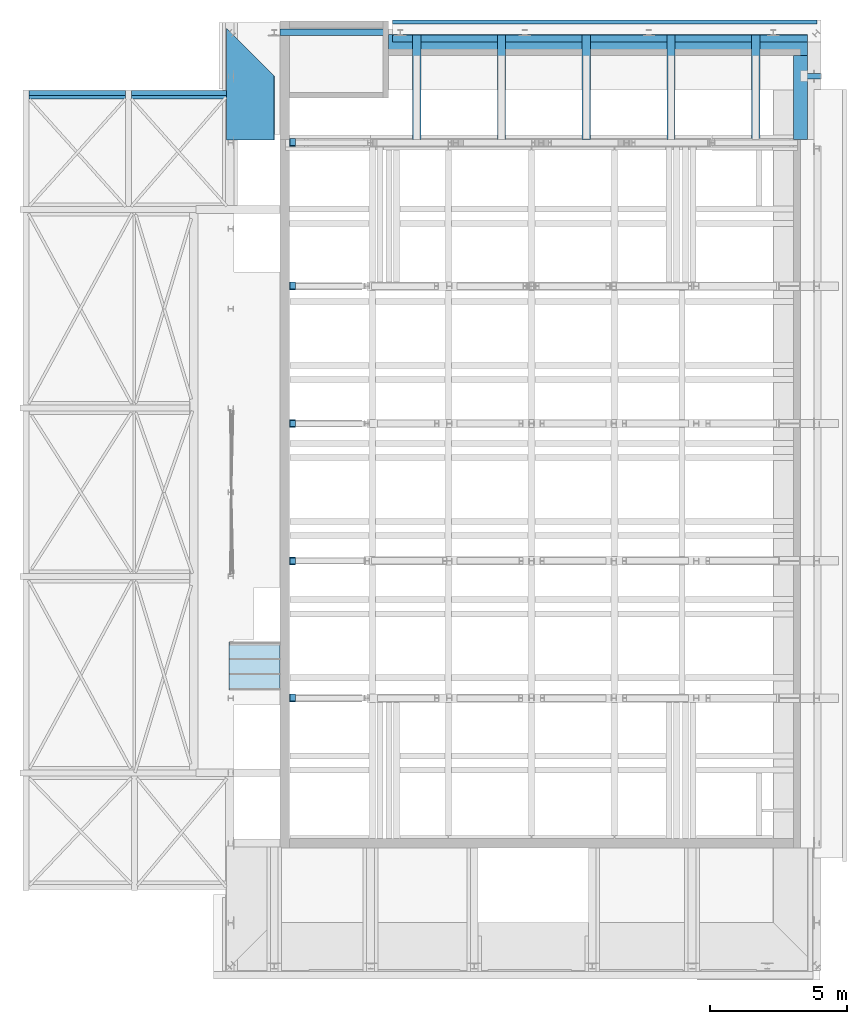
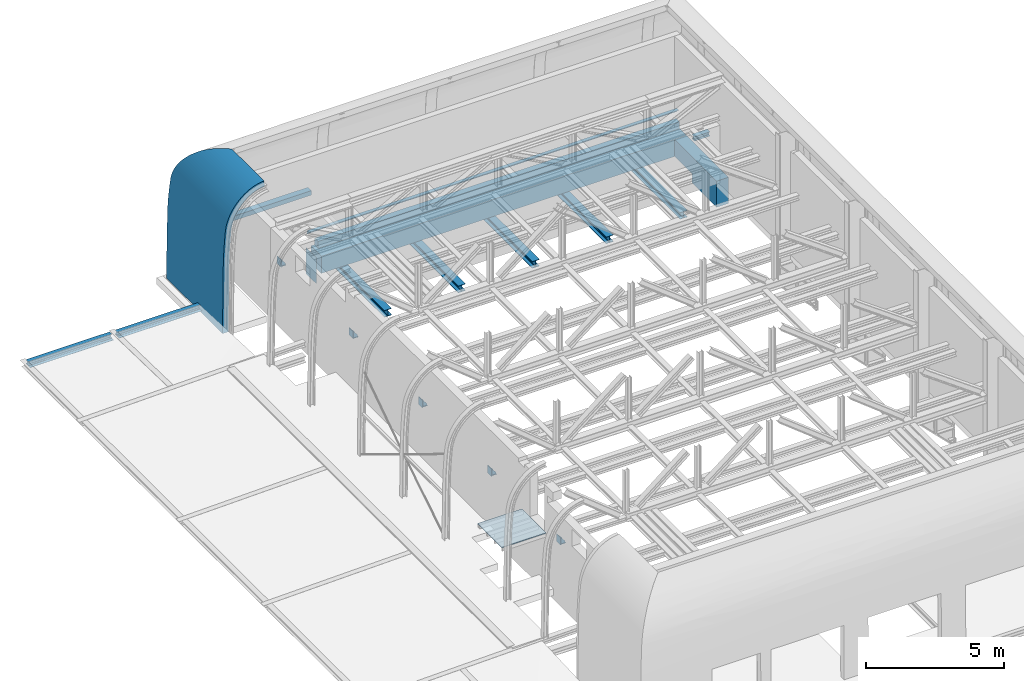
# One storey, part 24 of 29: 19 beams, 1 slab.
"""IFC2X3 building model written with IfcOpenShell, lengths in millimetres."""

from ifc_helpers import new_model, entity, si_unit, converted_unit, derived_unit, direction, frame, frame_2d, origin, origin_2d_with_axis, place, context, subcontext, project, spatial, polyline, circle_curve, parameter, trimmed, segment, composite_curve, rectangle, i_section, outline, extrude, clip, halfspace, faceted_brep, source, transform, mapped, material, material_list, layer, layer_set, layer_usage, type_object, type_shapes, element, save


model = new_model("IFC2X3")

# Units and contexts
model_context = context("Model", 3, precision=0.01, world=origin(), true_north=direction((6.12303176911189e-17, 1.0)))
body_context = subcontext(model_context, "Body", "Model", "MODEL_VIEW")
ifc_project = project(units=[si_unit("LENGTHUNIT", "METRE", prefix="MILLI"), si_unit("AREAUNIT", "SQUARE_METRE", prefix="MILLI"), si_unit("VOLUMEUNIT", "CUBIC_METRE"), converted_unit("PLANEANGLEUNIT", "DEGREE", entity("IfcRatioMeasure", 0.0174532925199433), si_unit("PLANEANGLEUNIT", "RADIAN"), dimensions=[0, 0, 0, 0, 0, 0, 0]), si_unit("MASSUNIT", "GRAM", prefix="KILO"), derived_unit("MASSDENSITYUNIT", [(si_unit("MASSUNIT", "GRAM", prefix="KILO"), 1), (si_unit("LENGTHUNIT", "METRE"), -3)]), derived_unit("MOMENTOFINERTIAUNIT", [(si_unit("LENGTHUNIT", "METRE"), 4)]), si_unit("TIMEUNIT", "SECOND"), si_unit("FREQUENCYUNIT", "HERTZ"), si_unit("THERMODYNAMICTEMPERATUREUNIT", "DEGREE_CELSIUS"), derived_unit("THERMALTRANSMITTANCEUNIT", [(si_unit("MASSUNIT", "GRAM", prefix="KILO"), 1), (si_unit("THERMODYNAMICTEMPERATUREUNIT", "KELVIN"), -1), (si_unit("TIMEUNIT", "SECOND"), -3)]), derived_unit("VOLUMETRICFLOWRATEUNIT", [(si_unit("LENGTHUNIT", "METRE"), 3), (si_unit("TIMEUNIT", "SECOND"), -1)]), si_unit("ELECTRICCURRENTUNIT", "AMPERE"), si_unit("ELECTRICVOLTAGEUNIT", "VOLT"), si_unit("POWERUNIT", "WATT"), si_unit("FORCEUNIT", "NEWTON", prefix="KILO"), si_unit("ILLUMINANCEUNIT", "LUX"), si_unit("LUMINOUSFLUXUNIT", "LUMEN"), si_unit("LUMINOUSINTENSITYUNIT", "CANDELA"), derived_unit("USERDEFINED", [(si_unit("MASSUNIT", "GRAM", prefix="KILO"), -1), (si_unit("LENGTHUNIT", "METRE"), -2), (si_unit("TIMEUNIT", "SECOND"), 3), (si_unit("LUMINOUSFLUXUNIT", "LUMEN"), 1)]), derived_unit("LINEARVELOCITYUNIT", [(si_unit("LENGTHUNIT", "METRE"), 1), (si_unit("TIMEUNIT", "SECOND"), -1)]), si_unit("PRESSUREUNIT", "PASCAL"), derived_unit("USERDEFINED", [(si_unit("LENGTHUNIT", "METRE"), -2), (si_unit("MASSUNIT", "GRAM", prefix="KILO"), 1), (si_unit("TIMEUNIT", "SECOND"), -2)]), derived_unit("LINEARFORCEUNIT", [(si_unit("MASSUNIT", "GRAM", prefix="KILO"), 1), (si_unit("LENGTHUNIT", "METRE"), 1), (si_unit("TIMEUNIT", "SECOND"), -2), (si_unit("LENGTHUNIT", "METRE"), -1)]), derived_unit("PLANARFORCEUNIT", [(si_unit("MASSUNIT", "GRAM", prefix="KILO"), 1), (si_unit("LENGTHUNIT", "METRE"), 1), (si_unit("TIMEUNIT", "SECOND"), -2), (si_unit("LENGTHUNIT", "METRE"), -2)])], contexts=[model_context])

# Site, building, storey
site_placement = place(None, origin())
site = spatial("IfcSite", under=ifc_project, at=site_placement, Name="Theater aan de Parade", CompositionType="ELEMENT")
building_placement = place(site_placement, origin())
building = spatial("IfcBuilding", under=site, at=building_placement, Name="Theater aan de Parade", CompositionType="ELEMENT")
storey_placement = place(building_placement, frame((0.0, 0.0, 20300.0)))
storey = spatial("IfcBuildingStorey", under=building, at=storey_placement, Name="05 vijfde verdieping", CompositionType="ELEMENT", Elevation=20300.0)

# Beams
ifc_material_1 = material(Name="00_PBT_MAT_staal_S355")
beam_type_1 = type_object("IfcBeamType", Name="28_PBT_SF_staal_H-profiel:S355_HE300B", PredefinedType="NOTDEFINED")
beam_1_placement = place(storey_placement, frame((78505.4885583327, 49051.5644848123, 0.0), z_axis=(0.0, 0.0, 1.0), x_axis=(0.0, -1.0, 0.0)))
element("IfcBeam", 1, at=beam_1_placement, inside=storey, type_object=beam_type_1, material=ifc_material_1, Name="28_PBT_SF_staal_H-profiel:S355_HE300B", ObjectType="28_PBT_SF_staal_H-profiel:S355_HE300B", context=body_context, shape_type="SweptSolid", body=[
    extrude(i_section(OverallWidth=300.000000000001, OverallDepth=300.000000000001, WebThickness=10.9999999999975, FlangeThickness=18.9999999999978, FilletRadius=26.9999999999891, at=frame_2d((0.0, 0.0), x_axis=(0.0, 1.0))), frame((0.0, 0.0, -1575.0), z_axis=(1.0, 0.0, 0.0), x_axis=(0.0, 0.0, -1.0)), (0.0, 0.0, 1.0), 3791.56448481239),
])
beam_2_placement = place(storey_placement, frame((84679.5647725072, 49049.6445126, 0.0), z_axis=(0.0, 0.0, 1.0), x_axis=(0.0, -1.0, 0.0)))
element("IfcBeam", 2, at=beam_2_placement, inside=storey, type_object=beam_type_1, material=ifc_material_1, Name="28_PBT_SF_staal_H-profiel:S355_HE300B", ObjectType="28_PBT_SF_staal_H-profiel:S355_HE300B", context=body_context, shape_type="SweptSolid", body=[
    extrude(i_section(OverallWidth=300.000000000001, OverallDepth=300.000000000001, WebThickness=10.9999999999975, FlangeThickness=18.9999999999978, FilletRadius=26.9999999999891, at=frame_2d((0.0, 0.0), x_axis=(0.0, 1.0))), frame((0.0, 0.0, -1575.0), z_axis=(1.0, 0.0, 0.0), x_axis=(0.0, 0.0, -1.0)), (0.0, 0.0, 1.0), 3789.64451260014),
])
beam_3_placement = place(storey_placement, frame((72331.4123441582, 49049.6445126, 0.0), z_axis=(0.0, 0.0, 1.0), x_axis=(0.0, -1.0, 0.0)))
element("IfcBeam", 3, at=beam_3_placement, inside=storey, type_object=beam_type_1, material=ifc_material_1, Name="28_PBT_SF_staal_H-profiel:S355_HE300B", ObjectType="28_PBT_SF_staal_H-profiel:S355_HE300B", context=body_context, shape_type="SweptSolid", body=[
    extrude(outline(composite_curve([segment(polyline([(131.0, -150.0), (150.0, -150.0)]), True, "CONTINUOUS"), segment(polyline([(150.0, -150.0), (150.0, 150.0)]), True, "CONTINUOUS"), segment(polyline([(150.0, 150.0), (131.0, 150.0)]), True, "CONTINUOUS"), segment(polyline([(131.0, 150.0), (131.0, 32.4999999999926)]), True, "CONTINUOUS"), segment(trimmed(circle_curve(frame_2d((104.0, 32.4999999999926), x_axis=(1.0, 0.0)), 27.0000000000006), [parameter(270.0)], [parameter(0.0)], True, "PARAMETER"), False, "CONTINUOUS"), segment(polyline([(104.0, 5.49999999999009), (-104.0, 5.49999999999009)]), True, "CONTINUOUS"), segment(trimmed(circle_curve(frame_2d((-104.0, 32.4999999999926), x_axis=(0.0, -1.0)), 27.0000000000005), [parameter(270.0)], [parameter(0.0)], True, "PARAMETER"), False, "CONTINUOUS"), segment(polyline([(-131.0, 32.4999999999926), (-131.0, 150.0)]), True, "CONTINUOUS"), segment(polyline([(-131.0, 150.0), (-150.0, 150.0)]), True, "CONTINUOUS"), segment(polyline([(-150.0, 150.0), (-150.0, -150.0)]), True, "CONTINUOUS"), segment(polyline([(-150.0, -150.0), (-131.0, -150.0)]), True, "CONTINUOUS"), segment(polyline([(-131.0, -150.0), (-131.0, -32.5000000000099)]), True, "CONTINUOUS"), segment(trimmed(circle_curve(frame_2d((-104.0, -32.5000000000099), x_axis=(-1.0, 0.0)), 27.0000000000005), [parameter(270.0)], [parameter(0.0)], True, "PARAMETER"), False, "CONTINUOUS"), segment(polyline([(-104.0, -5.50000000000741), (104.0, -5.50000000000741)]), True, "CONTINUOUS"), segment(trimmed(circle_curve(frame_2d((104.0, -32.5000000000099), x_axis=(0.0, 1.0)), 27.0000000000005), [parameter(270.0)], [parameter(0.0)], True, "PARAMETER"), False, "CONTINUOUS"), segment(polyline([(131.0, -32.5000000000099), (131.0, -150.0)]), True, "CONTINUOUS")], self_intersect=False)), frame((0.0, 0.0, -1575.0), z_axis=(1.0, 0.0, 0.0), x_axis=(0.0, 0.0, -1.0)), (0.0, 0.0, 1.0), 3789.64451260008),
])
beam_4_placement = place(storey_placement, frame((75418.4504512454, 49049.6445126, 0.0), z_axis=(0.0, 0.0, 1.0), x_axis=(0.0, -1.0, 0.0)))
element("IfcBeam", 4, at=beam_4_placement, inside=storey, type_object=beam_type_1, material=ifc_material_1, Name="28_PBT_SF_staal_H-profiel:S355_HE300B", ObjectType="28_PBT_SF_staal_H-profiel:S355_HE300B", context=body_context, shape_type="SweptSolid", body=[
    extrude(outline(composite_curve([segment(polyline([(131.0, -150.0), (150.0, -150.0)]), True, "CONTINUOUS"), segment(polyline([(150.0, -150.0), (150.0, 150.0)]), True, "CONTINUOUS"), segment(polyline([(150.0, 150.0), (131.0, 150.0)]), True, "CONTINUOUS"), segment(polyline([(131.0, 150.0), (131.0, 32.4999999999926)]), True, "CONTINUOUS"), segment(trimmed(circle_curve(frame_2d((104.0, 32.4999999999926), x_axis=(1.0, 0.0)), 27.0000000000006), [parameter(270.0)], [parameter(0.0)], True, "PARAMETER"), False, "CONTINUOUS"), segment(polyline([(104.0, 5.49999999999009), (-104.0, 5.49999999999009)]), True, "CONTINUOUS"), segment(trimmed(circle_curve(frame_2d((-104.0, 32.4999999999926), x_axis=(0.0, -1.0)), 27.0000000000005), [parameter(270.0)], [parameter(0.0)], True, "PARAMETER"), False, "CONTINUOUS"), segment(polyline([(-131.0, 32.4999999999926), (-131.0, 150.0)]), True, "CONTINUOUS"), segment(polyline([(-131.0, 150.0), (-150.0, 150.0)]), True, "CONTINUOUS"), segment(polyline([(-150.0, 150.0), (-150.0, -150.0)]), True, "CONTINUOUS"), segment(polyline([(-150.0, -150.0), (-131.0, -150.0)]), True, "CONTINUOUS"), segment(polyline([(-131.0, -150.0), (-131.0, -32.5000000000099)]), True, "CONTINUOUS"), segment(trimmed(circle_curve(frame_2d((-104.0, -32.5000000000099), x_axis=(-1.0, 0.0)), 27.0000000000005), [parameter(270.0)], [parameter(0.0)], True, "PARAMETER"), False, "CONTINUOUS"), segment(polyline([(-104.0, -5.50000000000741), (104.0, -5.50000000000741)]), True, "CONTINUOUS"), segment(trimmed(circle_curve(frame_2d((104.0, -32.5000000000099), x_axis=(0.0, 1.0)), 27.0000000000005), [parameter(270.0)], [parameter(0.0)], True, "PARAMETER"), False, "CONTINUOUS"), segment(polyline([(131.0, -32.5000000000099), (131.0, -150.0)]), True, "CONTINUOUS")], self_intersect=False)), frame((0.0, 0.0, -1575.0), z_axis=(1.0, 0.0, 0.0), x_axis=(0.0, 0.0, -1.0)), (0.0, 0.0, 1.0), 3789.64451260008),
])
beam_5_placement = place(storey_placement, frame((81592.5266654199, 49049.6445126, 0.0), z_axis=(0.0, 0.0, 1.0), x_axis=(0.0, -1.0, 0.0)))
element("IfcBeam", 5, at=beam_5_placement, inside=storey, type_object=beam_type_1, material=ifc_material_1, Name="28_PBT_SF_staal_H-profiel:S355_HE300B", ObjectType="28_PBT_SF_staal_H-profiel:S355_HE300B", context=body_context, shape_type="SweptSolid", body=[
    extrude(outline(composite_curve([segment(polyline([(131.0, -150.0), (150.0, -150.0)]), True, "CONTINUOUS"), segment(polyline([(150.0, -150.0), (150.0, 150.0)]), True, "CONTINUOUS"), segment(polyline([(150.0, 150.0), (131.0, 150.0)]), True, "CONTINUOUS"), segment(polyline([(131.0, 150.0), (131.0, 32.5000000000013)]), True, "CONTINUOUS"), segment(trimmed(circle_curve(frame_2d((104.0, 32.5000000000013), x_axis=(1.0, 0.0)), 26.9999999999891), [parameter(269.999999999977)], [parameter(0.0)], True, "PARAMETER"), False, "CONTINUOUS"), segment(polyline([(104.0, 5.50000000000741), (-104.0, 5.50000000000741)]), True, "CONTINUOUS"), segment(trimmed(circle_curve(frame_2d((-104.0, 32.5000000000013), x_axis=(0.0, -1.0)), 26.9999999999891), [parameter(269.999999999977)], [parameter(0.0)], True, "PARAMETER"), False, "CONTINUOUS"), segment(polyline([(-131.0, 32.5000000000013), (-131.0, 150.0)]), True, "CONTINUOUS"), segment(polyline([(-131.0, 150.0), (-150.0, 150.0)]), True, "CONTINUOUS"), segment(polyline([(-150.0, 150.0), (-150.0, -150.0)]), True, "CONTINUOUS"), segment(polyline([(-150.0, -150.0), (-131.0, -150.0)]), True, "CONTINUOUS"), segment(polyline([(-131.0, -150.0), (-131.0, -32.5000000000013)]), True, "CONTINUOUS"), segment(trimmed(circle_curve(frame_2d((-104.0, -32.5000000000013), x_axis=(-1.0, 0.0)), 26.9999999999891), [parameter(269.999999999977)], [parameter(0.0)], True, "PARAMETER"), False, "CONTINUOUS"), segment(polyline([(-104.0, -5.49999999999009), (104.0, -5.49999999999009)]), True, "CONTINUOUS"), segment(trimmed(circle_curve(frame_2d((104.0, -32.5000000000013), x_axis=(0.0, 1.0)), 26.9999999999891), [parameter(269.999999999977)], [parameter(0.0)], True, "PARAMETER"), False, "CONTINUOUS"), segment(polyline([(131.0, -32.5000000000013), (131.0, -150.0)]), True, "CONTINUOUS")], self_intersect=False)), frame((0.0, 0.0, -1575.0), z_axis=(1.0, 0.0, 0.0), x_axis=(0.0, 0.0, -1.0)), (0.0, 0.0, 1.0), 3789.64451260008),
])
beam_type_2 = type_object("IfcBeamType", Name="28_PBT_SF_staal_L-profiel:S355_L150x150x15", PredefinedType="NOTDEFINED")
beam_6_placement = place(storey_placement, frame((71456.2561009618, 49559.4999999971, 0.0)))
element("IfcBeam", 6, at=beam_6_placement, inside=storey, type_object=beam_type_2, material=ifc_material_1, Name="28_PBT_SF_staal_L-profiel:S355_L150x150x15", ObjectType="28_PBT_SF_staal_L-profiel:S355_L150x150x15", context=body_context, shape_type="SweptSolid", body=[
    extrude(outline(composite_curve([segment(polyline([(-56.6666666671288, -93.3333333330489), (-49.6666666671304, -93.3333333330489)]), True, "CONTINUOUS"), segment(trimmed(circle_curve(frame_2d((-49.6666666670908, -85.3333333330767), x_axis=(0.0, -1.0)), 7.99999999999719), [parameter(0.0)], [parameter(90.0000000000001)], True, "PARAMETER"), True, "CONTINUOUS"), segment(polyline([(-41.6666666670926, -85.3333333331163), (-41.6666666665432, 25.6666666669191)]), True, "CONTINUOUS"), segment(trimmed(circle_curve(frame_2d((-25.6666666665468, 25.6666666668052), x_axis=(-1.0, 0.0)), 15.9999999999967), [parameter(269.999999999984)], [parameter(0.0)], True, "PARAMETER"), False, "CONTINUOUS"), segment(polyline([(-25.6666666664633, 41.6666666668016), (85.3333333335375, 41.6666666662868)]), True, "CONTINUOUS"), segment(trimmed(circle_curve(frame_2d((85.3333333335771, 49.6666666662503), x_axis=(0.0, -1.0)), 7.99999999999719), [parameter(0.0)], [parameter(90.0000000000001)], True, "PARAMETER"), True, "CONTINUOUS"), segment(polyline([(93.3333333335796, 49.6666666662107), (93.3333333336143, 56.6666666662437)]), True, "CONTINUOUS"), segment(polyline([(93.3333333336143, 56.6666666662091), (-56.6666666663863, 56.6666666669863)]), True, "CONTINUOUS"), segment(polyline([(-56.6666666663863, 56.6666666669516), (-56.6666666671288, -93.3333333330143)]), True, "CONTINUOUS")], self_intersect=False)), frame((0.0, -14.1666666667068, -326.666666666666), z_axis=(1.0, 0.0, 0.0), x_axis=(0.0, 0.0, -1.0)), (0.0, 0.0, 1.0), 15448.9121924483),
])
beam_type_3 = type_object("IfcBeamType", Name="28_PBT_SF_staal_H-profiel:S355_HE200A", PredefinedType="NOTDEFINED")
beam_7_placement = place(storey_placement, frame((87055.0, 47559.7383176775, 0.0), z_axis=(0.0, 0.0, 1.0), x_axis=(-1.0, 0.0, 0.0)))
element("IfcBeam", 7, at=beam_7_placement, inside=storey, type_object=beam_type_3, material=ifc_material_1, Name="28_PBT_SF_staal_H-profiel:S355_HE200A", ObjectType="28_PBT_SF_staal_H-profiel:S355_HE200A", context=body_context, shape_type="SweptSolid", body=[
    extrude(outline(composite_curve([segment(polyline([(85.0, -100.0), (95.0, -100.0)]), True, "CONTINUOUS"), segment(polyline([(95.0, -100.0), (95.0, 100.0)]), True, "CONTINUOUS"), segment(polyline([(95.0, 100.0), (85.0, 100.0)]), True, "CONTINUOUS"), segment(polyline([(85.0, 100.0), (85.0, 21.2499999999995)]), True, "CONTINUOUS"), segment(trimmed(circle_curve(frame_2d((67.0, 21.2499999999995), x_axis=(1.0, 0.0)), 17.9999999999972), [parameter(269.999999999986)], [parameter(0.0)], True, "PARAMETER"), False, "CONTINUOUS"), segment(polyline([(67.0, 3.25000000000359), (-67.0, 3.25000000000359)]), True, "CONTINUOUS"), segment(trimmed(circle_curve(frame_2d((-67.0, 21.2499999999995), x_axis=(0.0, -1.0)), 17.9999999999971), [parameter(269.999999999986)], [parameter(0.0)], True, "PARAMETER"), False, "CONTINUOUS"), segment(polyline([(-85.0, 21.2500000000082), (-85.0, 100.0)]), True, "CONTINUOUS"), segment(polyline([(-85.0, 100.0), (-95.0, 100.0)]), True, "CONTINUOUS"), segment(polyline([(-95.0, 100.0), (-95.0, -100.0)]), True, "CONTINUOUS"), segment(polyline([(-95.0, -100.0), (-85.0, -100.0)]), True, "CONTINUOUS"), segment(polyline([(-85.0, -100.0), (-85.0, -21.2499999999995)]), True, "CONTINUOUS"), segment(trimmed(circle_curve(frame_2d((-67.0, -21.2499999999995), x_axis=(-1.0, 0.0)), 17.9999999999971), [parameter(269.999999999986)], [parameter(0.0)], True, "PARAMETER"), False, "CONTINUOUS"), segment(polyline([(-67.0, -3.24999999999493), (67.0, -3.24999999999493)]), True, "CONTINUOUS"), segment(trimmed(circle_curve(frame_2d((67.0, -21.2499999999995), x_axis=(0.0, 1.0)), 17.9999999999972), [parameter(269.999999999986)], [parameter(0.0)], True, "PARAMETER"), False, "CONTINUOUS"), segment(polyline([(85.0, -21.2499999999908), (85.0, -100.0)]), True, "CONTINUOUS")], self_intersect=False)), frame((0.0, 0.0, -165.0), z_axis=(1.0, 0.0, 0.0), x_axis=(0.0, 0.0, -1.0)), (0.0, 0.0, 1.0), 650.435227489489),
])
ifc_material_2 = material(Name="00_PBT_MAT_beton prefab")
beam_type_4 = type_object("IfcBeamType", Name="28_PBT_SF_toneeltoren_dakboog:28_PBT_SF_toneeltoren_dakboog as K/20", PredefinedType="NOTDEFINED")
beam_8_placement = place(storey_placement, frame((65653.91096444, 49551.5644848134, 0.0), z_axis=(0.0, 0.0, 1.0), x_axis=(0.0, -1.0, 0.0)))
element("IfcBeam", 8, at=beam_8_placement, inside=storey, type_object=beam_type_4, material=ifc_material_2, Name="28_PBT_SF_toneeltoren_dakboog:28_PBT_SF_toneeltoren_dakboog as K/20", ObjectType="28_PBT_SF_toneeltoren_dakboog:28_PBT_SF_toneeltoren_dakboog as K/20", context=body_context, shape_type="Clipping", body=[
    clip(extrude(outline(composite_curve([segment(polyline([(-617.714724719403, -3758.31772732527), (-367.701157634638, -3758.31772732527)]), True, "CONTINUOUS"), segment(polyline([(-367.701157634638, -3758.31772732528), (-338.363478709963, -942.324560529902)]), True, "CONTINUOUS"), segment(trimmed(circle_curve(frame_2d((19483.9946639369, -1218.80127641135), x_axis=(-0.999902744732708, 0.0139463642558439)), 19824.2861588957), [parameter(355.572045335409)], [parameter(0.0)], True, "PARAMETER"), False, "CONTINUOUS"), segment(trimmed(circle_curve(frame_2d((1466.61288726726, 489.171068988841), x_axis=(-0.998386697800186, 0.0567802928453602)), 1727.25169724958), [parameter(315.909236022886)], [parameter(0.0)], True, "PARAMETER"), False, "CONTINUOUS"), segment(trimmed(circle_curve(frame_2d((1204.11487157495, 830.404694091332), x_axis=(-0.698882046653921, 0.715236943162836)), 1298.988401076), [parameter(318.712894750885)], [parameter(0.0)], True, "PARAMETER"), False, "CONTINUOUS"), segment(polyline([(1134.99286945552, 2127.55272533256), (1121.689824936, 2377.19853244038)]), True, "CONTINUOUS"), segment(trimmed(circle_curve(frame_2d((1204.11487157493, 830.404694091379), x_axis=(-0.0532121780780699, 0.998583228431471)), 1548.98840107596), [parameter(0.0)], [parameter(41.1498829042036)], True, "PARAMETER"), True, "CONTINUOUS"), segment(trimmed(circle_curve(frame_2d((1466.6128872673, 489.171068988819), x_axis=(-0.678923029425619, 0.734209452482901)), 1977.25169724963), [parameter(0.0)], [parameter(43.8569338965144)], True, "PARAMETER"), True, "CONTINUOUS"), segment(trimmed(circle_curve(frame_2d((19483.9946639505, -1218.80127641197), x_axis=(-0.995860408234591, 0.0908958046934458)), 20074.2861589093), [parameter(0.0)], [parameter(4.41731342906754)], True, "PARAMETER"), True, "CONTINUOUS"), segment(polyline([(-588.345331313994, -939.280428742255), (-617.714724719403, -3758.31772732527)]), True, "CONTINUOUS")], self_intersect=False)), frame((252.114769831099, 367.909522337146, 3698.31772732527), z_axis=(1.0, 0.0, 0.0), x_axis=(0.0, 1.0, 0.0)), (0.0, 0.0, 1.0), 4064.44971498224), halfspace(frame((488.256774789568, -13.663197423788, 17918.9585902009), z_axis=(-0.707106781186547, 0.707106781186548, 0.0), x_axis=(-0.707106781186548, -0.707106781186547, 0.0)), False)),
])
ifc_material_3 = material(Name="00_PBT_MAT_volgens leverancier")
beam_type_5 = type_object("IfcBeamType", Name="21_PBT_SF_akoestische ontkoppeling:250x300", PredefinedType="NOTDEFINED")
beam_9_placement = place(storey_placement, frame((71456.2561009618, 48802.0, 0.0)))
element("IfcBeam", 9, at=beam_9_placement, inside=storey, type_object=beam_type_5, material=ifc_material_3, Name="21_PBT_SF_akoestische ontkoppeling:250x300", ObjectType="21_PBT_SF_akoestische ontkoppeling:250x300", context=body_context, shape_type="SweptSolid", body=[
    extrude(rectangle(XDim=300.000000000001, YDim=249.999999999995, at=frame_2d((0.0, 3.46460637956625e-11), x_axis=(1.0, 0.0))), frame((0.0, 125.0, -420.0), z_axis=(1.0, 0.0, 0.0), x_axis=(0.0, 0.0, -1.0)), (0.0, 0.0, 1.0), 15098.912216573),
])
ifc_material_4 = material(Name="00_PBT_MAT_beton t.p.g._C30/37")
beam_type_6 = type_object("IfcBeamType", Name="28_PBT_SF_betonbalk:C30/37_770x1155", PredefinedType="BEAM", material=ifc_material_4)
shared_shape_1 = source(origin(), body_context, "Body", "SweptSolid", [
    extrude(rectangle(XDim=755.000000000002, YDim=769.999999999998, at=frame_2d((-1.08002495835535e-12, 3.89661636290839e-11), x_axis=(1.0, 0.0))), frame((71307.0, 48687.0, 19352.5), z_axis=(1.0, 0.0, 0.0), x_axis=(0.0, 0.0, -1.0)), (0.0, 0.0, 1.0), 15248.1683175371),
    extrude(rectangle(XDim=1155.0, YDim=769.999999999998, at=frame_2d((-2.1600499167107e-12, 0.0), x_axis=(1.0, 0.0))), frame((71106.4073307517, 48687.0, 19152.5), z_axis=(1.0, 0.0, 0.0), x_axis=(0.0, 0.0, -1.0)), (0.0, 0.0, 1.0), 0.738450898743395),
])
type_shapes(beam_type_6, [shared_shape_1])
beam_10_placement = place(storey_placement, frame((0.0, 0.0, -20300.0)))
element("IfcBeam", 10, at=beam_10_placement, inside=storey, type_object=beam_type_6, material=ifc_material_4, Name="28_PBT_SF_betonbalk:C30/37_770x1155", ObjectType="28_PBT_SF_betonbalk:C30/37_770x1155", context=body_context, shape_type="MappedRepresentation", body=[
    mapped(shared_shape_1, transform((0.0, 0.0, 0.0), scale=1.0)),
])
beam_type_7 = type_object("IfcBeamType", Name="28_PBT_SF_betonbalk:C30/37_500x1155", PredefinedType="NOTDEFINED")
beam_11_placement = place(storey_placement, frame((86055.1683175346, 45260.0, -1725.0), z_axis=(0.0, 0.0, 1.0), x_axis=(0.0, -1.0, 0.0)))
element("IfcBeam", 11, at=beam_11_placement, inside=storey, type_object=beam_type_7, material=ifc_material_4, Name="28_PBT_SF_betonbalk:C30/37_500x1155", ObjectType="28_PBT_SF_betonbalk:C30/37_500x1155", context=body_context, shape_type="Brep", body=[
    faceted_brep([(-3042.0, 500.0, 1155.0), (0.0, 500.0, 1155.0), (0.0, 500.0, 0.0), (-1792.0, 500.0, 0.0), (-1792.0, 500.0, 400.0), (-3042.0, 500.0, 400.0), (-3042.0, 0.0, 1155.0), (-3042.0, 249.831682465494, 1155.0), (-3042.0, 0.0, 400.0), (0.0, 0.0, 1155.0), (-1792.0, 0.0, 400.0), (-1792.0, 0.0, 0.0), (0.0, 0.0, 0.0), (0.0, 250.0, 0.0)], [[[0, 1, 2, 3, 4, 5]], [[6, 7, 0, 5, 8]], [[0, 7, 6, 9, 1]], [[6, 8, 10, 11, 12, 9]], [[11, 3, 2, 13, 12]], [[1, 9, 12, 13, 2]], [[4, 10, 8, 5]], [[10, 4, 3, 11]]]),
])
ifc_material_5 = material(Name="00_PBT_MAT_Lucht")
ifc_material_list_1 = material_list([ifc_material_1, ifc_material_5])
beam_type_8 = type_object("IfcBeamType", Name="28_PBT_SF_staal_H-profiel_met_ondergelaste_strip (void):S355_HE180A + ondergelaste strip d=12", PredefinedType="BEAM", material=ifc_material_list_1)
shared_shape_2 = source(origin(), body_context, "Body", "SweptSolid", [
    extrude(i_section(OverallWidth=180.000000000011, OverallDepth=171.0, WebThickness=5.99999999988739, FlangeThickness=9.49999999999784, FilletRadius=14.9999999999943, at=frame_2d((2.16715534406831e-12, 4.33431068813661e-12), x_axis=(0.0, 1.0))), frame((58224.1369079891, 46936.2166214, 20441.5), z_axis=(1.0, 0.0, 0.0), x_axis=(0.0, 0.0, -1.0)), (0.0, 0.0, 1.0), 3499.74534837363),
    extrude(rectangle(XDim=12.0000000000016, YDim=300.000000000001, at=frame_2d((0.0, 8.66862137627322e-12), x_axis=(1.0, 0.0))), frame((58225.1369079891, 46871.2166214, 20350.0), z_axis=(1.0, 0.0, 0.0), x_axis=(0.0, 0.0, -1.0)), (0.0, 0.0, 1.0), 3497.74534837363),
])
type_shapes(beam_type_8, [shared_shape_2])
beam_12_placement = place(storey_placement, frame((0.0, 0.0, -20300.0)))
element("IfcBeam", 12, at=beam_12_placement, inside=storey, type_object=beam_type_8, material=ifc_material_1, Name="28_PBT_SF_staal_H-profiel_met_ondergelaste_strip (void):S355_HE180A + ondergelaste strip d=12", ObjectType="28_PBT_SF_staal_H-profiel_met_ondergelaste_strip (void):S355_HE180A + ondergelaste strip d=12", context=body_context, shape_type="MappedRepresentation", body=[
    mapped(shared_shape_2, transform((0.0, 0.0, 0.0), scale=1.0)),
])
ifc_material_list_2 = material_list([ifc_material_1, ifc_material_5])
beam_type_9 = type_object("IfcBeamType", Name="28_PBT_SF_staal_H-profiel_met_ondergelaste_strip (void):S355_HE180A + ondergelaste strip d=12", PredefinedType="BEAM", material=ifc_material_list_2)
shared_shape_3 = source(origin(), body_context, "Body", "SweptSolid", [
    extrude(i_section(OverallWidth=180.000000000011, OverallDepth=171.0, WebThickness=5.99999999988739, FlangeThickness=9.49999999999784, FilletRadius=14.9999999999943, at=frame_2d((2.16715534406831e-12, 4.33431068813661e-12), x_axis=(0.0, 1.0))), frame((61943.8822563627, 46936.2166214, 20441.5), z_axis=(1.0, 0.0, 0.0), x_axis=(0.0, 0.0, -1.0)), (0.0, 0.0, 1.0), 3462.32278007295),
    extrude(rectangle(XDim=12.0000000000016, YDim=300.000000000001, at=frame_2d((0.0, 8.66862137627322e-12), x_axis=(1.0, 0.0))), frame((61944.8822563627, 46871.2166214, 20350.0), z_axis=(1.0, 0.0, 0.0), x_axis=(0.0, 0.0, -1.0)), (0.0, 0.0, 1.0), 3460.32278007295),
])
type_shapes(beam_type_9, [shared_shape_3])
beam_13_placement = place(storey_placement, frame((0.0, 0.0, -20300.0)))
element("IfcBeam", 13, at=beam_13_placement, inside=storey, type_object=beam_type_9, material=ifc_material_1, Name="28_PBT_SF_staal_H-profiel_met_ondergelaste_strip (void):S355_HE180A + ondergelaste strip d=12", ObjectType="28_PBT_SF_staal_H-profiel_met_ondergelaste_strip (void):S355_HE180A + ondergelaste strip d=12", context=body_context, shape_type="MappedRepresentation", body=[
    mapped(shared_shape_3, transform((0.0, 0.0, 0.0), scale=1.0)),
])
beam_type_10 = type_object("IfcBeamType", Name="21_PBT_SF_akoestische ontkoppeling:250x200", PredefinedType="NOTDEFINED")
beam_14_placement = place(storey_placement, frame((67356.2561009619, 49029.1527424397, 2160.0)))
element("IfcBeam", 14, at=beam_14_placement, inside=storey, type_object=beam_type_10, material=ifc_material_3, Name="21_PBT_SF_akoestische ontkoppeling:250x200", ObjectType="21_PBT_SF_akoestische ontkoppeling:250x200", context=body_context, shape_type="SweptSolid", body=[
    extrude(rectangle(XDim=199.999999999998, YDim=249.999999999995, at=frame_2d((2.16715534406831e-12, 8.66151594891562e-12), x_axis=(1.0, 0.0))), frame((0.0, 125.0, -370.0), z_axis=(1.0, 0.0, 0.0), x_axis=(0.0, 0.0, -1.0)), (0.0, 0.0, 1.0), 3950.88180940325),
])
beam_type_11 = type_object("IfcBeamType", Name="28_PBT_SF_staal_oplegschoen vakwerk:oplegschoen vakwerk toneeltoren", PredefinedType="BEAM", material=ifc_material_1)
shared_shape_4 = source(origin(), body_context, "Body", "SweptSolid", [
    clip(extrude(rectangle(XDim=15.0000000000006, YDim=179.999999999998, at=origin_2d_with_axis()), frame((110.0, 117.5, 0.0), z_axis=(0.0, 0.0, 1.0), x_axis=(0.0, -1.0, 0.0)), (0.0, 0.0, 1.0), 220.000000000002), halfspace(frame((200.0, 110.0, 70.0), z_axis=(0.755689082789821, 0.0, 0.654930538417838), x_axis=(0.0, 1.0, 0.0)), False)),
    clip(extrude(rectangle(XDim=14.9999999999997, YDim=179.999999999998, at=frame_2d((-8.43769498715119e-15, 0.0), x_axis=(1.0, 0.0))), frame((110.0, -117.5, 0.0), z_axis=(0.0, 0.0, 1.0), x_axis=(0.0, -1.0, 0.0)), (0.0, 0.0, 1.0), 220.000000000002), halfspace(frame((200.0, -125.0, 70.0), z_axis=(0.755689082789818, 0.0, 0.654930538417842), x_axis=(0.0, 1.0, 0.0)), False)),
    extrude(rectangle(XDim=290.0, YDim=199.999999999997, at=origin_2d_with_axis()), frame((120.0, 0.0, -20.0), z_axis=(0.0, 0.0, 1.0), x_axis=(0.0, -1.0, 0.0)), (0.0, 0.0, 1.0), 19.9999999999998),
    extrude(rectangle(XDim=290.000000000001, YDim=20.0000000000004, at=origin_2d_with_axis()), frame((10.0, 0.0, -40.0), z_axis=(0.0, 0.0, 1.0), x_axis=(0.0, -1.0, 0.0)), (0.0, 0.0, 1.0), 330.000000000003),
])
type_shapes(beam_type_11, [shared_shape_4])
for number, where, name in (
    (15, (67706.2561009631, 24910.0, 2250.0), "28_PBT_SF_staal_oplegschoen vakwerk:oplegschoen vakwerk toneeltoren"),
    (16, (67706.2561009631, 29910.0, 2250.0), "28_PBT_SF_staal_oplegschoen vakwerk:oplegschoen vakwerk toneeltoren"),
    (17, (67706.2561009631, 34910.0, 2250.0), "28_PBT_SF_staal_oplegschoen vakwerk:oplegschoen vakwerk toneeltoren"),
    (18, (67706.2561009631, 39910.0, 2250.0), "28_PBT_SF_staal_oplegschoen vakwerk:oplegschoen vakwerk toneeltoren"),
    (19, (67706.2561009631, 45135.0, 2250.0), "28_PBT_SF_staal_oplegschoen vakwerk:oplegschoen vakwerk toneeltoren"),
):
    element("IfcBeam", number, at=place(storey_placement, frame(where)), inside=storey, type_object=beam_type_11, material=ifc_material_1, Name=name, ObjectType="28_PBT_SF_staal_oplegschoen vakwerk:oplegschoen vakwerk toneeltoren", context=body_context, shape_type="MappedRepresentation", body=[
        mapped(shared_shape_4, transform((0.0, 0.0, 0.0), scale=1.0)),
    ])

# Slab
ifc_material_6 = material(Name="00_PBT_MAT_hout")
ifc_layer = layer(ifc_material_6, 24.0)
ifc_layer_set = layer_set([ifc_layer], Name="Floor:28_PBT_FL_hout_d=24")
ifc_layer_usage = layer_usage(ifc_layer_set, "AXIS3", "POSITIVE", 0.0)
slab_type = type_object("IfcSlabType", Name="Floor:28_PBT_FL_hout_d=24", PredefinedType="FLOOR", material=ifc_layer_set)
slab_placement = place(storey_placement, origin())
element("IfcSlab", 20, at=slab_placement, inside=storey, type_object=slab_type, material=ifc_layer_usage, Name="Floor:28_PBT_FL_hout_d=24", ObjectType="Floor:28_PBT_FL_hout_d=24", PredefinedType="FLOOR", context=body_context, shape_type="SweptSolid", body=[
    extrude(rectangle(XDim=1754.17427235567, YDim=1852.499999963, at=frame_2d((-4.37694325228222e-12, -4.32009983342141e-12), x_axis=(1.0, 0.0))), frame((66430.0061009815, 26087.0854477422, 2610.0), z_axis=(0.0, 0.0, -1.0), x_axis=(0.0, 1.0, 0.0)), (0.0, 0.0, 1.0), 23.9999999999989),
])

save(model, "model.ifc")
